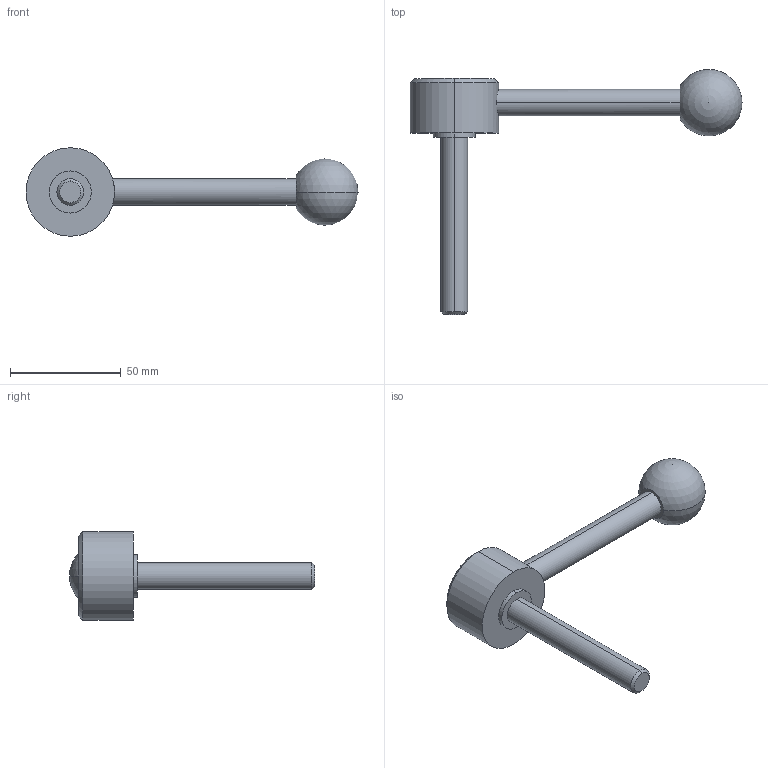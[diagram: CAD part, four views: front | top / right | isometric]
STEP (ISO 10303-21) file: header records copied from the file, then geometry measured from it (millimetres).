
FILE_DESCRIPTION (( 'STEP AP214' ), '1' );
FILE_NAME ('125.5-40-M12-80-D.step', '2020-02-18T11:36:55', ( '' ), ( '' ), 'SwSTEP 2.0', 'SolidWorks 2019', '' );
FILE_SCHEMA (( 'AUTOMOTIVE_DESIGN' ));
Length unit declared in the file: millimetre
Products named in the file (1): 125.5-40-M12-80-D
Bounding box: 150 x 110.7 x 40 mm (x, y, z)
Volume: 63510.3 mm3; surface area: 14255.9 mm2
Topology: 1 solids, 1 shells, 22 faces, 47 edges, 30 vertices
Faces by surface type: cylinder 10, plane 6, cone 4, sphere 2
Entity records: 748 total; most frequent: CARTESIAN_POINT 176, DIRECTION 112, ORIENTED_EDGE 84, AXIS2_PLACEMENT_3D 49, EDGE_CURVE 42, EDGE_LOOP 27, VERTEX_POINT 27, CIRCLE 26
